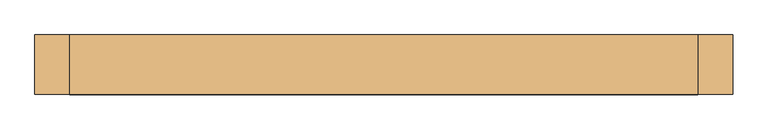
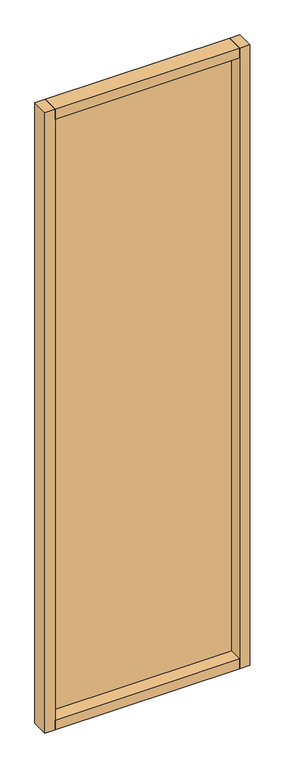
"""IFC4 building model written with IfcOpenShell, lengths in millimetres: door geometry, Mobiliário_Mobiliário de Escritório_Painel Vidro Simples - DVST e DVSL (Completo)_Marelli : DV1ST - 10mm - Temperado."""

from ifc_helpers import new_model, si_unit, frame, origin, origin_with_axes, place, context, project, spatial, polyline, outline, extrude, source, transform, mapped, element, save


def door_0ff6be66(model_context):
    return source(origin(), model_context, "Body", "SweptSolid", [
        extrude(outline(polyline([(450.0, 42.5), (450.0, -42.5), (-450.0, -42.5), (-450.0, 42.5), (450.0, 42.5)])), origin_with_axes(), (0.0, 0.0, 1.0), 50.0),
        extrude(outline(polyline([(450.0, 42.5), (450.0, -42.5), (-450.0, -42.5), (-450.0, 42.5), (450.0, 42.5)])), frame((0.0, 0.0, 3150.0), z_axis=(0.0, 0.0, 1.0), x_axis=(1.0, 0.0, 0.0)), (0.0, 0.0, 1.0), 50.0),
        extrude(outline(polyline([(-500.0, -42.5), (-500.0, 42.5), (-450.0, 42.5), (-450.0, -42.5), (-500.0, -42.5)])), origin_with_axes(), (0.0, 0.0, 1.0), 3200.0),
        extrude(outline(polyline([(500.0, -42.5), (450.0, -42.5), (450.0, 42.5), (500.0, 42.5), (500.0, -42.5)])), origin_with_axes(), (0.0, 0.0, 1.0), 3200.0),
        extrude(outline(polyline([(450.0, 35.1), (450.0, 25.1), (-450.0, 25.1), (-450.0, 35.1), (450.0, 35.1)])), frame((0.0, 0.0, 50.0), z_axis=(0.0, 0.0, 1.0), x_axis=(1.0, 0.0, 0.0)), (0.0, 0.0, 1.0), 3100.0),
    ])


if __name__ == "__main__":
    model = new_model("IFC4")
    model_context = context("Model", 3, world=origin())
    ifc_project = project(units=[si_unit("LENGTHUNIT", "METRE", prefix="MILLI")], contexts=[model_context])
    site = spatial("IfcSite", under=ifc_project)
    building = spatial("IfcBuilding", under=site)
    placement = place(None, origin())
    door_shape = door_0ff6be66(model_context)
    element("IfcDoor", 1, ObjectType="Mobiliário_Mobiliário de Escritório_Painel Vidro Simples - DVST e DVSL (Completo)_Marelli : DV1ST - 10mm - Temperado", at=placement, inside=building, context=model_context, shape_type="MappedRepresentation", body=[
        mapped(door_shape, transform((0.0, 0.0, 0.0), x_axis=(1.0, 0.0, 0.0), y_axis=(0.0, 1.0, 0.0), z_axis=(0.0, 0.0, 1.0))),
    ])
    save(model, "model.ifc")
